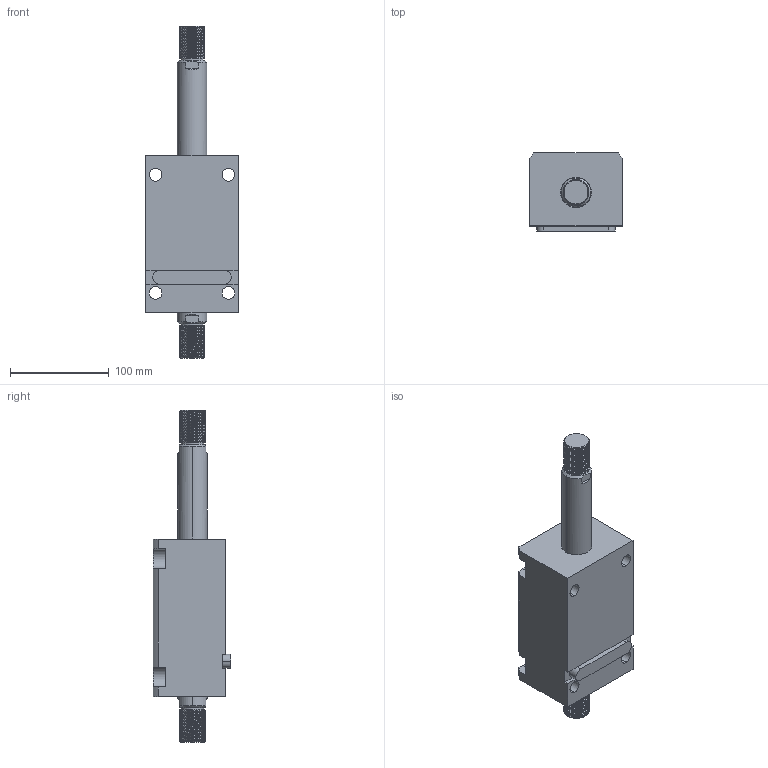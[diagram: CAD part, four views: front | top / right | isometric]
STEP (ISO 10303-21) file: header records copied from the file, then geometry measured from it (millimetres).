
FILE_DESCRIPTION (( 'STEP AP203' ), '1' );
FILE_NAME ('CHTB-LW50-85W.STEP', '2018-05-18T09:14:42', ( '' ), ( '' ), 'SwSTEP 2.0', 'SolidWorks 2015', '' );
FILE_SCHEMA (( 'CONFIG_CONTROL_DESIGN' ));
Length unit declared in the file: millimetre
Products named in the file (4): CHTM-SDMA50QG; 活塞杆LW50-85W; 掛极LW50-85W; CHTB-LW50-85W
Assembly tree (3 placements, depth 2):
  CHTB-LW50-85W
    掛极LW50-85W
    活塞杆LW50-85W
    CHTM-SDMA50QG
Bounding box: 94 x 79 x 337 mm (x, y, z)
Volume: 1060133.3 mm3; surface area: 157589.5 mm2
Topology: 3 solids, 3 shells, 310 faces, 854 edges, 568 vertices
Faces by surface type: cylinder 186, plane 63, cone 27, bspline 18, torus 16
Entity records: 19510 total; most frequent: CARTESIAN_POINT 11940, ORIENTED_EDGE 1700, DIRECTION 1310, EDGE_CURVE 850, VERTEX_POINT 568, AXIS2_PLACEMENT_3D 503, EDGE_LOOP 348, ADVANCED_FACE 310
